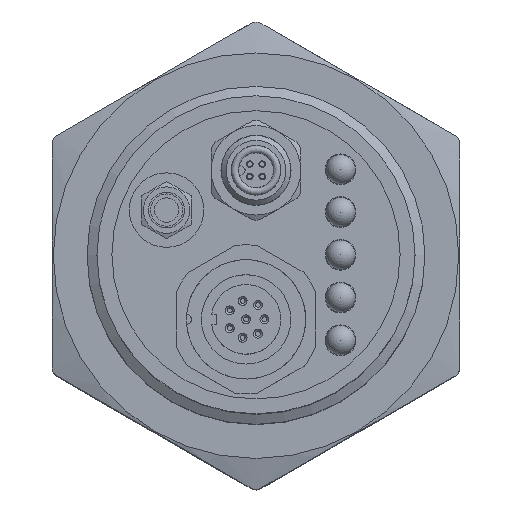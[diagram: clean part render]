
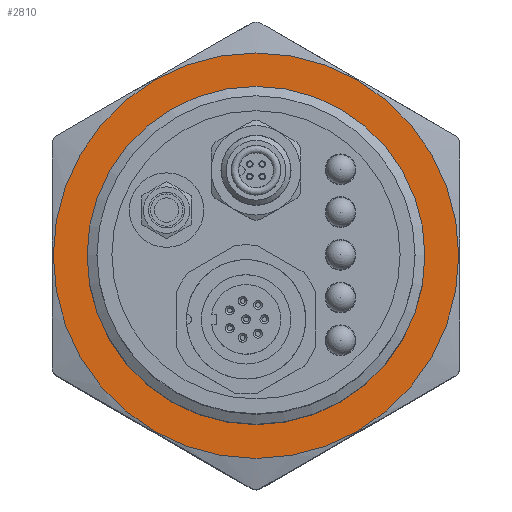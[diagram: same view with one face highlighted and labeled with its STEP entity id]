
A CAD part, top view. The second image highlights one B-rep face of the part: STEP entity #2810.
In plain terms, the highlighted planar face has unit normal (0, 0, 1).
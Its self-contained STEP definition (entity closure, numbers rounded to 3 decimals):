
#450=FACE_BOUND($,#858,.T.);
#451=FACE_BOUND($,#859,.T.);
#858=EDGE_LOOP($,(#2157));
#859=EDGE_LOOP($,(#2158));
#1092=CIRCLE($,#3063,17.);
#1100=CIRCLE($,#3092,20.4);
#1274=VERTEX_POINT($,#4439);
#1318=VERTEX_POINT($,#4758);
#1561=EDGE_CURVE($,#1274,#1274,#1092,.T.);
#1617=EDGE_CURVE($,#1318,#1318,#1100,.T.);
#2157=ORIENTED_EDGE($,*,*,#1561,.T.);
#2158=ORIENTED_EDGE($,*,*,#1617,.T.);
#2492=PLANE($,#3106);
#2810=ADVANCED_FACE($,(#450,#451),#2492,.T.);
#3063=AXIS2_PLACEMENT_3D($,#4440,#3610,#3611);
#3092=AXIS2_PLACEMENT_3D($,#4759,#3680,#3681);
#3106=AXIS2_PLACEMENT_3D($,#4875,#3720,#3721);
#3610=DIRECTION('center_axis',(0.,0.,
-1.));
#3611=DIRECTION('ref_axis',(-1.,0.,0.));
#3680=DIRECTION('center_axis',(0.,0.,
1.));
#3681=DIRECTION('ref_axis',(0.866,0.5,0.));
#3720=DIRECTION('center_axis',(0.,0.,
1.));
#3721=DIRECTION('ref_axis',(-0.5,0.866,0.));
#4439=CARTESIAN_POINT('',(17.,0.,131.9));
#4440=CARTESIAN_POINT('Origin',(0.,0.,
131.9));
#4758=CARTESIAN_POINT('',(17.667,10.2,131.9));
#4759=CARTESIAN_POINT('Origin',(0.,0.,
131.9));
#4875=CARTESIAN_POINT('Origin',(0.,0.,
131.9));
